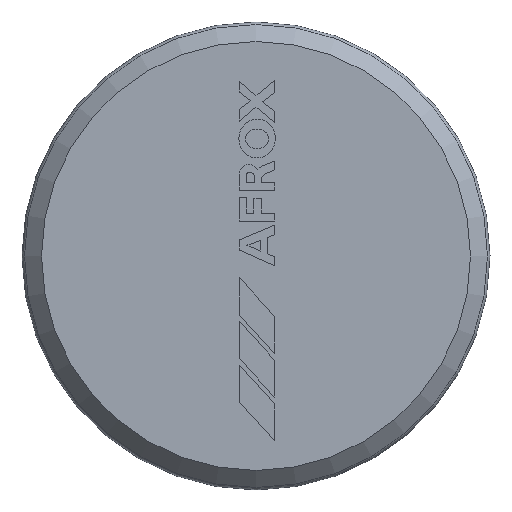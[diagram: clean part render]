
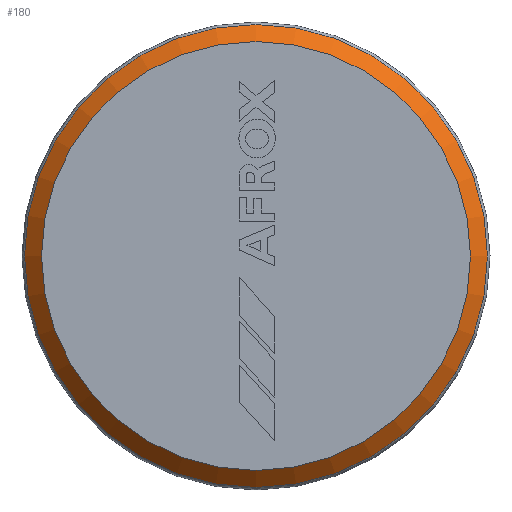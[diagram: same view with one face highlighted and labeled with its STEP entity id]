
A CAD part, left-side view. The second image highlights one B-rep face of the part: STEP entity #180.
In plain terms, the highlighted conical face has half-angle 45 degrees and reference radius 14.364 mm.
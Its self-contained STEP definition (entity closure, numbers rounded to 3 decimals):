
#180 = ADVANCED_FACE( '', ( #402, #403 ), #404, .T. );
#402 = FACE_OUTER_BOUND( '', #675, .T. );
#403 = FACE_BOUND( '', #676, .T. );
#404 = CONICAL_SURFACE( '', #677, 14.364, 0.785 );
#675 = EDGE_LOOP( '', ( #1130 ) );
#676 = EDGE_LOOP( '', ( #1131 ) );
#677 = AXIS2_PLACEMENT_3D( '', #1132, #1133, #1134 );
#1130 = ORIENTED_EDGE( '', *, *, #1684, .T. );
#1131 = ORIENTED_EDGE( '', *, *, #1697, .F. );
#1132 = CARTESIAN_POINT( '', ( -26.136, 0., 0. ) );
#1133 = DIRECTION( '', ( 1., 0., 0. ) );
#1134 = DIRECTION( '', ( 0., 0., -1. ) );
#1684 = EDGE_CURVE( '', #2055, #2055, #2056, .T. );
#1697 = EDGE_CURVE( '', #2075, #2075, #2076, .T. );
#2055 = VERTEX_POINT( '', #2563 );
#2056 = CIRCLE( '', #2564, 15.5 );
#2075 = VERTEX_POINT( '', #2589 );
#2076 = CIRCLE( '', #2590, 14.364 );
#2563 = CARTESIAN_POINT( '', ( -25., 0., 15.5 ) );
#2564 = AXIS2_PLACEMENT_3D( '', #2934, #2935, #2936 );
#2589 = CARTESIAN_POINT( '', ( -26.136, 0., 14.364 ) );
#2590 = AXIS2_PLACEMENT_3D( '', #2949, #2950, #2951 );
#2934 = CARTESIAN_POINT( '', ( -25., 0., 0. ) );
#2935 = DIRECTION( '', ( -1., 0., 0. ) );
#2936 = DIRECTION( '', ( 0., 0., 1. ) );
#2949 = CARTESIAN_POINT( '', ( -26.136, 0., 0. ) );
#2950 = DIRECTION( '', ( -1., 0., 0. ) );
#2951 = DIRECTION( '', ( 0., 0., 1. ) );
